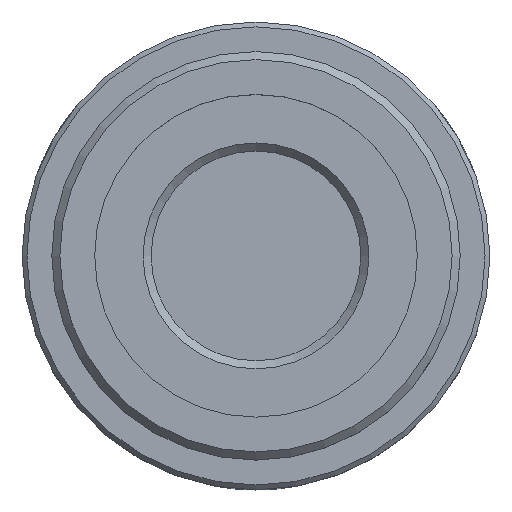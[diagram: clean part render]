
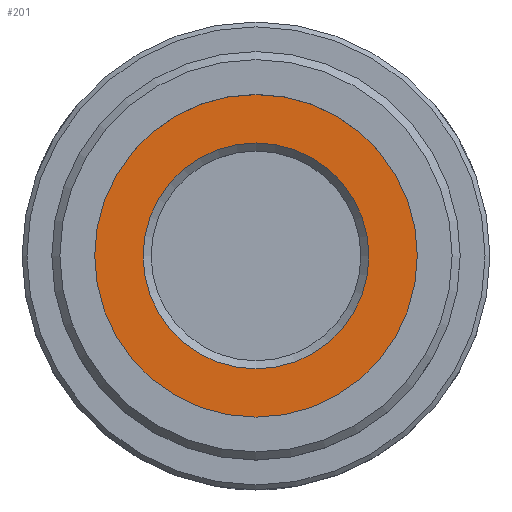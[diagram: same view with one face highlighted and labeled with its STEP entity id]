
A CAD part, top view. The second image highlights one B-rep face of the part: STEP entity #201.
In plain terms, the highlighted planar face has unit normal (0, 0, 1).
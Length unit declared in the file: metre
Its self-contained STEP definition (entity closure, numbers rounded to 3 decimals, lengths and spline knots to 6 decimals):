
#201=ADVANCED_FACE('NONE',(#462,#463),#464,.F.);
#462=FACE_BOUND('',#799,.T.);
#463=FACE_OUTER_BOUND('',#800,.T.);
#464=PLANE('',#801);
#799=EDGE_LOOP('',(#1343));
#800=EDGE_LOOP('',(#1344));
#801=AXIS2_PLACEMENT_3D('',#1345,#1346,#1347);
#1343=ORIENTED_EDGE('',*,*,#1957,.T.);
#1344=ORIENTED_EDGE('',*,*,#1955,.F.);
#1345=CARTESIAN_POINT('',(0.01465,0.0106,0.049459));
#1346=DIRECTION('',(0.,0.0,-1.0));
#1347=DIRECTION('',(-1.0,0.0,0.));
#1955=EDGE_CURVE('NONE',#2279,#2279,#2280,.T.);
#1957=EDGE_CURVE('NONE',#2282,#2282,#2283,.T.);
#2279=VERTEX_POINT('',#2745);
#2280=CIRCLE('',#2746,0.01);
#2282=VERTEX_POINT('',#2748);
#2283=CIRCLE('',#2749,0.007);
#2745=CARTESIAN_POINT('',(0.00465,0.0006,0.049459));
#2746=AXIS2_PLACEMENT_3D('',#3528,#3529,#3530);
#2748=CARTESIAN_POINT('',(0.00765,0.0006,0.049459));
#2749=AXIS2_PLACEMENT_3D('',#3531,#3532,#3533);
#3528=CARTESIAN_POINT('',(0.01465,0.0006,0.049459));
#3529=DIRECTION('',(0.,0.0,-1.0));
#3530=DIRECTION('',(-1.0,0.0,0.));
#3531=CARTESIAN_POINT('',(0.01465,0.0006,0.049459));
#3532=DIRECTION('',(0.,0.0,-1.0));
#3533=DIRECTION('',(-1.0,0.0,0.));
